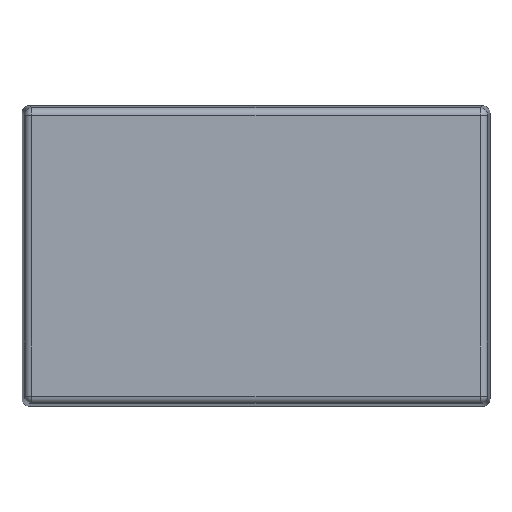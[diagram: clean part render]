
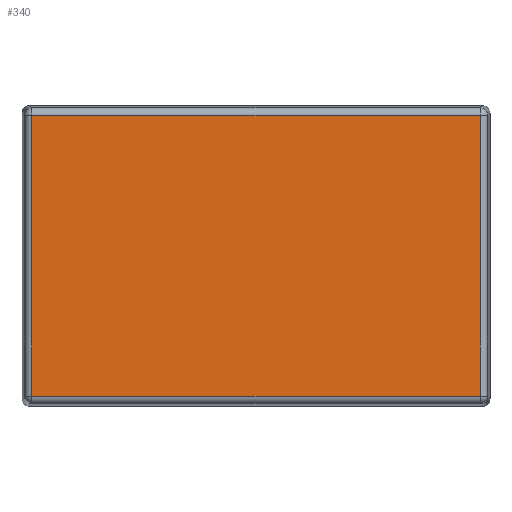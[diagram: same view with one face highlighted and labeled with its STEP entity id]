
A CAD part, top view. The second image highlights one B-rep face of the part: STEP entity #340.
In plain terms, the highlighted planar face has unit normal (0, 0, 1).
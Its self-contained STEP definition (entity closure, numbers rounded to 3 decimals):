
#340=ADVANCED_FACE('',(#468),#430,.F.);
#430=PLANE('',#1096);
#468=FACE_OUTER_BOUND('',#525,.T.);
#525=EDGE_LOOP('',(#683,#684,#685,#686));
#683=ORIENTED_EDGE('',*,*,#967,.T.);
#684=ORIENTED_EDGE('',*,*,#968,.T.);
#685=ORIENTED_EDGE('',*,*,#969,.T.);
#686=ORIENTED_EDGE('',*,*,#970,.T.);
#883=VERTEX_POINT('',#1662);
#884=VERTEX_POINT('',#1663);
#885=VERTEX_POINT('',#1665);
#886=VERTEX_POINT('',#1667);
#967=EDGE_CURVE('',#883,#884,#1067,.T.);
#968=EDGE_CURVE('',#884,#885,#1068,.T.);
#969=EDGE_CURVE('',#885,#886,#1069,.T.);
#970=EDGE_CURVE('',#886,#883,#1070,.T.);
#1067=LINE('',#1661,#1087);
#1068=LINE('',#1664,#1088);
#1069=LINE('',#1666,#1089);
#1070=LINE('',#1668,#1090);
#1087=VECTOR('',#1288,1.);
#1088=VECTOR('',#1289,1.);
#1089=VECTOR('',#1290,1.);
#1090=VECTOR('',#1291,1.);
#1096=AXIS2_PLACEMENT_3D('',#1669,#1292,#1293);
#1288=DIRECTION('',(1.,0.,0.));
#1289=DIRECTION('',(0.,1.,0.));
#1290=DIRECTION('',(-1.,0.,0.));
#1291=DIRECTION('',(0.,-1.,0.));
#1292=DIRECTION('',(0.,0.,-1.));
#1293=DIRECTION('',(-1.,0.,0.));
#1661=CARTESIAN_POINT('',(15.622,-9.481,10.2));
#1662=CARTESIAN_POINT('',(-15.131,-9.481,10.2));
#1663=CARTESIAN_POINT('',(15.131,-9.481,10.2));
#1664=CARTESIAN_POINT('',(15.131,9.972,10.2));
#1665=CARTESIAN_POINT('',(15.131,9.481,10.2));
#1666=CARTESIAN_POINT('',(-15.622,9.481,10.2));
#1667=CARTESIAN_POINT('',(-15.131,9.481,10.2));
#1668=CARTESIAN_POINT('',(-15.131,-9.972,10.2));
#1669=CARTESIAN_POINT('',(0.,0.,10.2));
